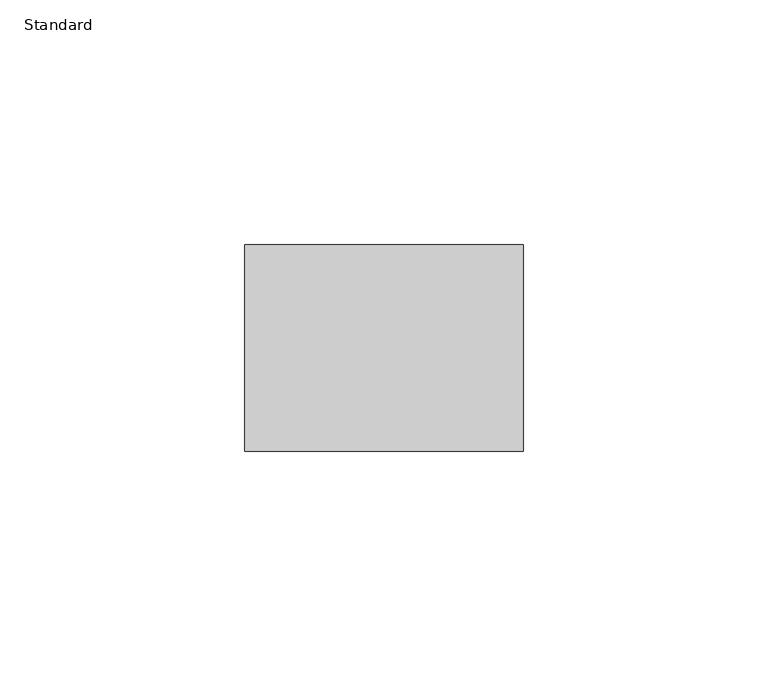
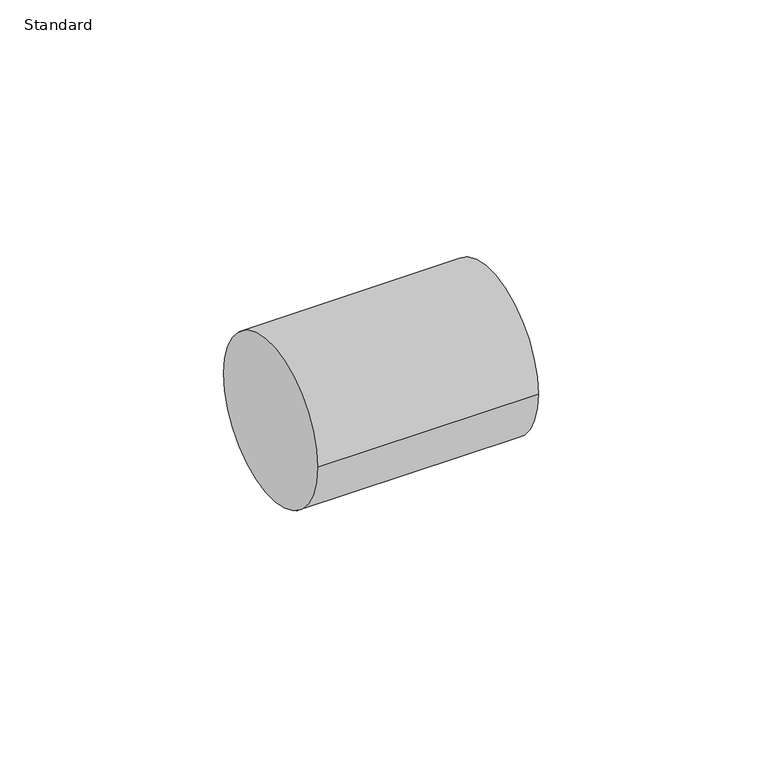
"""IFC4 building model written with IfcOpenShell, lengths in millimetres: pipe fitting geometry, Manchon - Générique1 : Standard."""

from ifc_helpers import new_model, si_unit, point, frame, origin, origin_2d, place, context, project, spatial, circle_curve, trimmed, segment, composite_curve, outline, extrude, source, transform, mapped, element, save


def standard_7c18a4ec(model_context):
    return source(origin(), model_context, "Body", "SweptSolid", [
        extrude(outline(composite_curve([segment(trimmed(circle_curve(origin_2d(), 21.1), [point((-21.1, 0.0))], [point((21.1, 0.0))], False, "CARTESIAN"), True, "CONTINUOUS"), segment(trimmed(circle_curve(origin_2d(), 21.1), [point((21.1, 0.0))], [point((-21.1, 0.0))], False, "CARTESIAN"), True, "CONTINUOUS")], self_intersect=False)), frame((-28.5, 0.0, 0.0), z_axis=(1.0, 0.0, 0.0), x_axis=(0.0, 1.0, 0.0)), (0.0, 0.0, 1.0), 57.0),
    ])


if __name__ == "__main__":
    model = new_model("IFC4")
    model_context = context("Model", 3, world=origin())
    ifc_project = project(units=[si_unit("LENGTHUNIT", "METRE", prefix="MILLI")], contexts=[model_context])
    site = spatial("IfcSite", under=ifc_project)
    building = spatial("IfcBuilding", under=site)
    placement = place(None, origin())
    standard_shape = standard_7c18a4ec(model_context)
    element("IfcPipeFitting", 1, ObjectType="Manchon - Générique1 : Standard", at=placement, inside=building, context=model_context, shape_type="MappedRepresentation", body=[
        mapped(standard_shape, transform((0.0, 0.0, 0.0), x_axis=(1.0, 0.0, 0.0), y_axis=(0.0, 1.0, 0.0), z_axis=(0.0, 0.0, 1.0))),
    ])
    save(model, "model.ifc")
